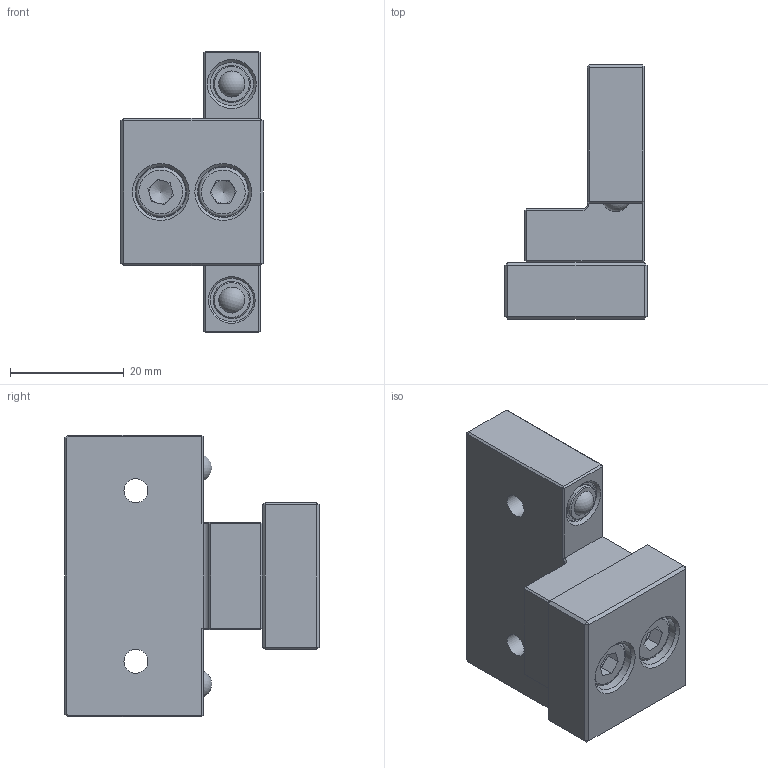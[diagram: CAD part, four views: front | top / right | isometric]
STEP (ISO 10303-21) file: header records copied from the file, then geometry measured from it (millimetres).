
FILE_DESCRIPTION (( 'STEP AP203' ), '1' );
FILE_NAME ('3D-6921324010031.STEP', '2023-12-14T07:19:42', ( '' ), ( '' ), 'SwSTEP 2.0', 'SolidWorks 2021', '' );
FILE_SCHEMA (( 'CONFIG_CONTROL_DESIGN' ));
Length unit declared in the file: millimetre
Products named in the file (5): 6921324010000; 6921324002200; 3D-6921324010031; 8006100510800_ISO 4762 M5 x 10; 8149901001006
Assembly tree (6 placements, depth 2):
  3D-6921324010031
    6921324010000
    6921324002200
    8006100510800_ISO 4762 M5 x 10  x2
    8149901001006  x2
Bounding box: 25 x 44.75 x 49.6 mm (x, y, z)
Volume: 21709.5 mm3; surface area: 9679 mm2
Topology: 6 solids, 6 shells, 176 faces, 359 edges, 205 vertices
Faces by surface type: plane 119, cone 26, cylinder 21, torus 8, sphere 2
Full cylindrical faces by diameter (mm): 4.2 x4, 5 x2, 5.1 x2, 6 x4, 6.52 x2, 7.6 x2, 8.7 x2, 9 x2
Entity records: 3929 total; most frequent: DIRECTION 608, CARTESIAN_POINT 548, ORIENTED_EDGE 486, EDGE_CURVE 243, AXIS2_PLACEMENT_3D 213, EDGE_LOOP 198, VECTOR 182, LINE 182
